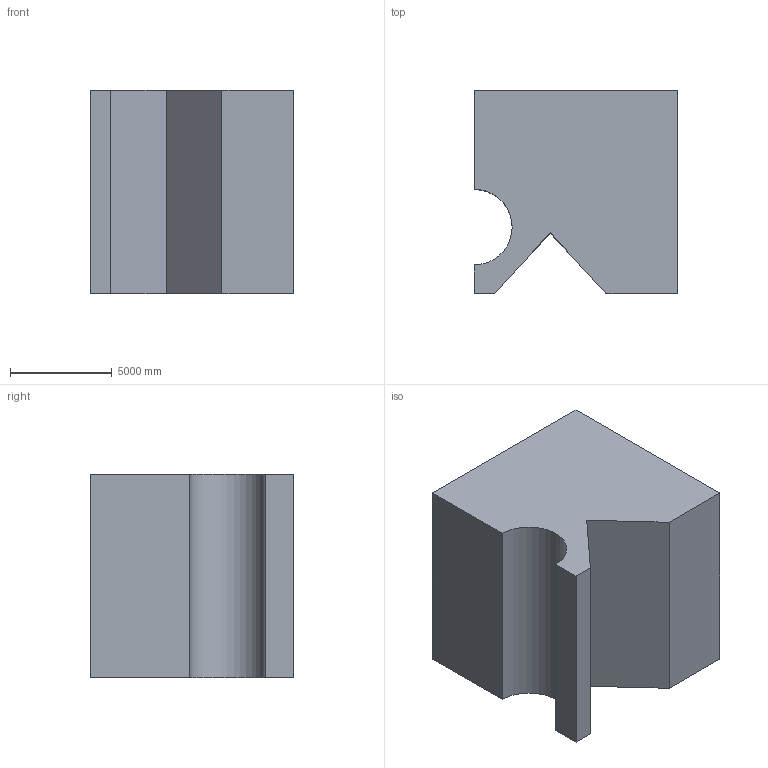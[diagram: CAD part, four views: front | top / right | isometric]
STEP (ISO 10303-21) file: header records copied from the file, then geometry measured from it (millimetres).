
FILE_DESCRIPTION (( 'STEP AP203' ), '1' );
FILE_NAME ('18.STEP', '2022-08-30T14:02:27', ( 'user' ), ( '' ), 'SwSTEP 2.0', 'SolidWorks 2021', '' );
FILE_SCHEMA (( 'CONFIG_CONTROL_DESIGN' ));
Length unit declared in the file: centimetre
Products named in the file (1): 18
Bounding box: 10000 x 10000 x 10000 mm (x, y, z)
Volume: 863941129340.4 mm3; surface area: 620267808.6 mm2
Topology: 1 solids, 1 shells, 11 faces, 27 edges, 18 vertices
Faces by surface type: plane 10, cylinder 1
Entity records: 400 total; most frequent: CARTESIAN_POINT 57, ORIENTED_EDGE 54, DIRECTION 53, EDGE_CURVE 27, LINE 25, VECTOR 25, VERTEX_POINT 18, AXIS2_PLACEMENT_3D 14
